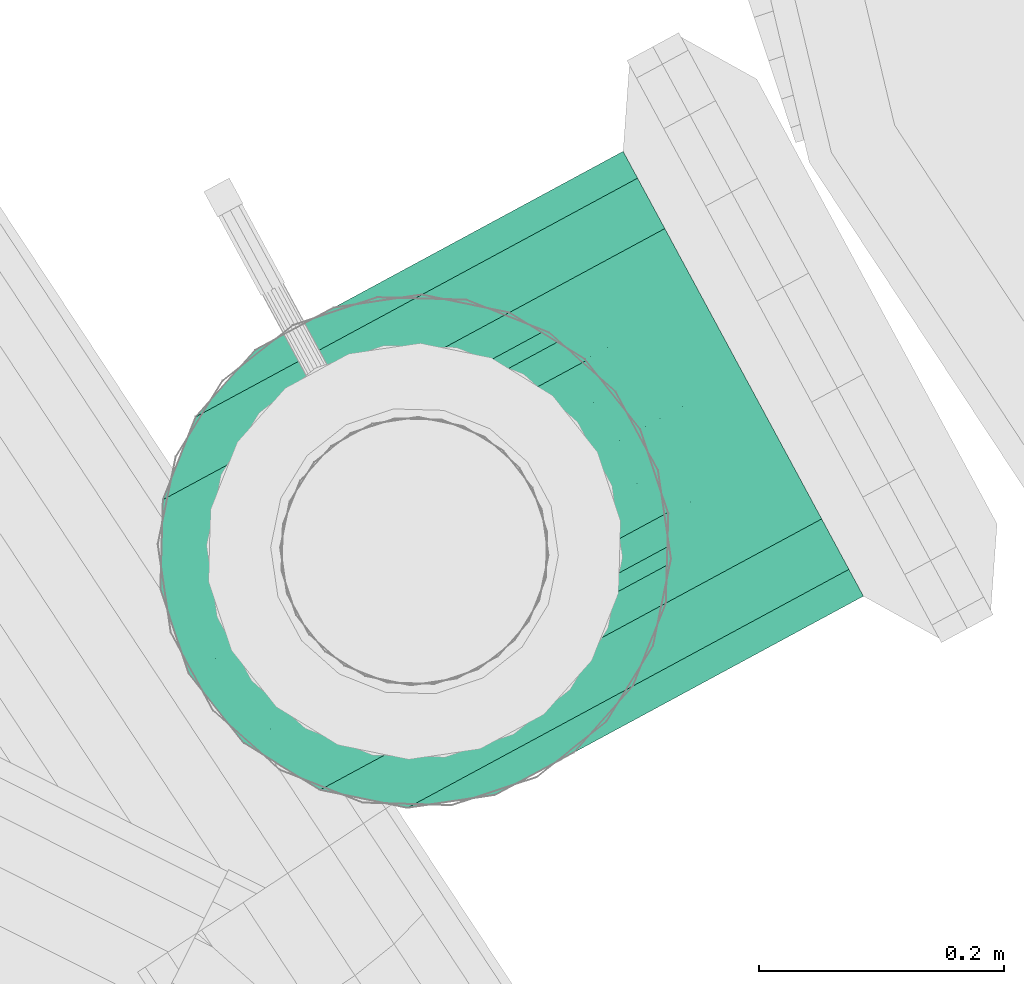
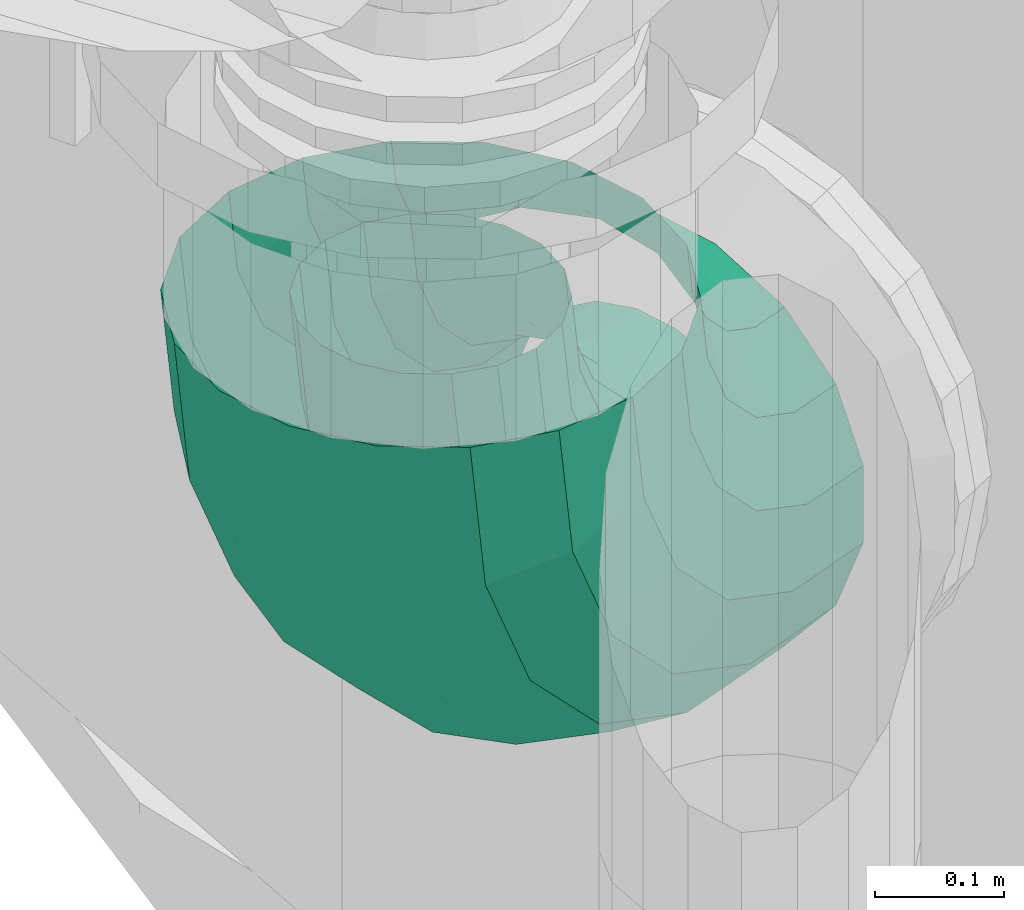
# One storey, part 97 of 206: 1 flow segment.
"""IFC2X3 building model written with IfcOpenShell, lengths in metres."""

from ifc_helpers import new_model, si_unit, derived_unit, direction, frame, origin, place, context, subcontext, project, spatial, face_set, surface_model, source, transform, mapped, material, type_object, type_shapes, element, save


model = new_model("IFC2X3")

# Units and contexts
model_context = context("Model", 3, precision=5.2338327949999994e-05, world=origin(), true_north=direction((0.0, 1.0)))
body_context = subcontext(model_context, "Body", "Model", "MODEL_VIEW")
ifc_project = project(units=[si_unit("LENGTHUNIT", "METRE"), si_unit("AREAUNIT", "SQUARE_METRE"), si_unit("VOLUMEUNIT", "CUBIC_METRE"), si_unit("MASSUNIT", "GRAM", prefix="KILO"), si_unit("PLANEANGLEUNIT", "RADIAN"), derived_unit("THERMALTRANSMITTANCEUNIT", [(si_unit("MASSUNIT", "GRAM", prefix="KILO"), 1), (si_unit("THERMODYNAMICTEMPERATUREUNIT", "KELVIN"), -1), (si_unit("TIMEUNIT", "SECOND"), -3)])], contexts=[model_context])

# Site, building, storey
site_placement = place(None, frame((0.0, 0.0, 0.0), z_axis=(0.0, 0.0, 1.0), x_axis=(0.8939966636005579, -0.4480736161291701, 0.0)))
site = spatial("IfcSite", under=ifc_project, at=site_placement, Name="Default", CompositionType="ELEMENT")
building_placement = place(site_placement, origin())
building = spatial("IfcBuilding", under=site, at=building_placement, CompositionType="ELEMENT")
storey_placement = place(building_placement, origin())
storey = spatial("IfcBuildingStorey", under=building, at=storey_placement, Name="Erdgeschoss", CompositionType="ELEMENT", Elevation=0.0)

# Flow segment
ifc_material = material(Name="IfcSurfaceStyle #1741")
distribution_element_type = type_object("IfcDistributionElementType", Name="Rohrbogen 350151:Rohrbogen 350151", material=ifc_material)
shared_shape = source(origin(), body_context, "Body", "SurfaceModel", [
    surface_model("IfcFaceBasedSurfaceModel", [(34.10171883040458, 9.469604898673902, 1.3), (34.13241107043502, 9.44811396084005, 1.3066066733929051), (34.060105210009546, 9.34485049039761, 1.3265728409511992), (34.028241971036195, 9.364669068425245, 1.320289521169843), (33.99487715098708, 9.251695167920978, 1.3845169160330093), (33.96195753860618, 9.27000508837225, 1.3791720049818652), (33.94311187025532, 9.177766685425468, 1.4747669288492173), (33.90935391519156, 9.19487932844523, 1.4708836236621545), (33.909876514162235, 9.130301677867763, 1.5884885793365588), (33.87558030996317, 9.146645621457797, 1.5864470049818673), (33.89842439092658, 9.113946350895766, 1.714550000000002), (33.8639427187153, 9.130025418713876, 1.7145500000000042), (34.15940137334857, 9.429215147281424, 1.3256298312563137), (34.0904672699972, 9.33076704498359, 1.3446649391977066), (34.02828091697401, 9.241955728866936, 1.3999069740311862), (33.9789295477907, 9.171474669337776, 1.485948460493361), (33.947244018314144, 9.126223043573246, 1.5943670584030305), (33.93632592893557, 9.11063039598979, 1.7145500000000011), (34.17943431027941, 9.415187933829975, 1.3547749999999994), (34.11566603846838, 9.324117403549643, 1.3723836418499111), (34.0581398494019, 9.241961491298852, 1.4234859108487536), (34.0124868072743, 9.176762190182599, 1.5030795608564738), (33.98317574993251, 9.13490166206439, 1.603373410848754), (33.97307584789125, 9.12047750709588, 1.714550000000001), (34.19009361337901, 9.40772420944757, 1.3905268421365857), (34.13266217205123, 9.32570361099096, 1.406385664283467), (34.080852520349, 9.251711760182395, 1.452409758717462), (34.03973614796, 9.192991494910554, 1.52409396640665), (34.01333781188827, 9.155290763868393, 1.6144213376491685), (34.004241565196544, 9.142299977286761, 1.71455), (34.19009361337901, 9.407724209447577, 1.4285731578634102), (34.13940568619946, 9.335334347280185, 1.442569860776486), (34.09367944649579, 9.27003050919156, 1.4831898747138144), (34.05739089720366, 9.218205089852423, 1.5464570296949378), (34.034092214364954, 9.184931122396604, 1.6261782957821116), (34.026064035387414, 9.173465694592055, 1.7145500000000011), (34.17943431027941, 9.415187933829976, 1.4643249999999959), (34.1350832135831, 9.351848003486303, 1.4765718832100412), (34.09507351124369, 9.29470822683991, 1.5121137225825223), (34.06332163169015, 9.249361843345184, 1.5674714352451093), (34.04293567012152, 9.220247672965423, 1.6372262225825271), (34.0359111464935, 9.21021561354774, 1.7145499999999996), (34.159401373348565, 9.429215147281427, 1.4934701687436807), (34.12021610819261, 9.37325278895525, 1.5042905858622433), (34.084866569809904, 9.322768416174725, 1.5356926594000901), (34.05681301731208, 9.282703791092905, 1.5846025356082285), (34.038801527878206, 9.25698071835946, 1.6462325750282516), (34.03259519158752, 9.248117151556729, 1.7145499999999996), (34.13241107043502, 9.44811396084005, 1.5124933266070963), (34.09659756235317, 9.39696697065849, 1.5223826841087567), (34.064289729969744, 9.350826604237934, 1.5510827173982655), (34.03865008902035, 9.314209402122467, 1.5957840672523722), (34.022188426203, 9.290699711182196, 1.6521110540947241), (34.0165161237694, 9.282598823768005, 1.7145499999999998), (34.101718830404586, 9.469604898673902, 1.5190999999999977), (34.06707632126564, 9.420130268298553, 1.5286660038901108), (34.03582486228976, 9.375498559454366, 1.5564276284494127), (34.01102356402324, 9.340078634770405, 1.599667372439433), (33.9951001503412, 9.317337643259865, 1.6541526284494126), (33.98961331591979, 9.309501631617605, 1.7145499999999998), (34.07102659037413, 9.491095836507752, 1.5124933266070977), (34.03521308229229, 9.43994884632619, 1.5223826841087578), (34.00290524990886, 9.393808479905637, 1.5510827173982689), (33.97726560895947, 9.357191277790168, 1.595784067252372), (33.96080394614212, 9.333681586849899, 1.6521110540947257), (33.95513164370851, 9.325580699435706, 1.7145500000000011), (34.04403628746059, 9.509994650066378, 1.4934701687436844), (34.00485102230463, 9.454032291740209, 1.5042905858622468), (33.969501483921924, 9.403547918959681, 1.5356926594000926), (33.941447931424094, 9.363483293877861, 1.5846025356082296), (33.923436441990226, 9.337760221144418, 1.6462325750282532), (33.91723010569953, 9.328896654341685, 1.7145500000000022), (34.02400335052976, 9.524021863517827, 1.4643250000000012), (33.97965225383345, 9.460681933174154, 1.4765718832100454), (33.93964255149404, 9.403542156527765, 1.5121137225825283), (33.90789067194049, 9.358195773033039, 1.5674714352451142), (33.887504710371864, 9.329081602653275, 1.6372262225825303), (33.88048018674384, 9.319049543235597, 1.7145500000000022), (34.01334404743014, 9.531485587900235, 1.4285731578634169), (33.962656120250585, 9.459095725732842, 1.4425698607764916), (33.91692988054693, 9.393791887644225, 1.4831898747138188), (33.8806413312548, 9.341966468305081, 1.5464570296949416), (33.85734264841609, 9.308692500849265, 1.6261782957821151), (33.849314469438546, 9.297227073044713, 1.7145500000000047), (34.01334404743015, 9.531485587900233, 1.39052684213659), (33.95591260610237, 9.449464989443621, 1.4063856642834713), (33.90410295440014, 9.375473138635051, 1.4524097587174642), (33.86298658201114, 9.316752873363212, 1.524093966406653), (33.8365882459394, 9.279052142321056, 1.6144213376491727), (33.82749199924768, 9.266061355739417, 1.7145500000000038), (34.024003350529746, 9.524021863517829, 1.3547750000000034), (33.96023507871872, 9.432951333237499, 1.3723836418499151), (33.90270888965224, 9.350795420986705, 1.423485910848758), (33.857055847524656, 9.285596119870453, 1.503079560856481), (33.82774479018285, 9.243735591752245, 1.6033734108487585), (33.817644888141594, 9.229311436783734, 1.7145500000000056), (34.04403628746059, 9.509994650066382, 1.3256298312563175), (33.975102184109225, 9.411546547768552, 1.3446649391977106), (33.91291583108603, 9.322735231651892, 1.399906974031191), (33.86356446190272, 9.252254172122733, 1.4859484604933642), (33.83187893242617, 9.2070025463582, 1.5943670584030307), (33.82096084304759, 9.191409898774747, 1.7145500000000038), (34.07102659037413, 9.491095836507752, 1.3066066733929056), (33.998720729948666, 9.38783236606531, 1.3265728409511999), (33.93349267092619, 9.294677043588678, 1.3845169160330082), (33.88172739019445, 9.220748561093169, 1.4747669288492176), (33.84849203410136, 9.173283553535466, 1.588488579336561), (33.83703991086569, 9.156928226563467, 1.7145500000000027), (34.10171883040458, 9.469604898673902, 1.1999999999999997), (34.160427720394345, 9.428496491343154, 1.212637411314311), (34.07146629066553, 9.301446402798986, 1.237202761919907), (34.01051748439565, 9.339355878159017, 1.2251838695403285), (33.9912130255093, 9.18683286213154, 1.308494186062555), (33.928243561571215, 9.221856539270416, 1.2982703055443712), (33.927523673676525, 9.095875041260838, 1.4195331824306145), (33.862950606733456, 9.128608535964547, 1.4121050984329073), (33.8866325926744, 9.03747652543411, 1.5594504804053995), (33.82102994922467, 9.068739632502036, 1.5555453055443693), (33.87254248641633, 9.017353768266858, 1.7145500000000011), (33.8065850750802, 9.04811021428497, 1.7145500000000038), (34.21205545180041, 9.392346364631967, 1.2490253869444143), (34.129543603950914, 9.274507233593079, 1.271809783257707), (34.05510859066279, 9.168203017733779, 1.3379326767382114), (33.99603662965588, 9.083839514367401, 1.4409214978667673), (33.958110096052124, 9.029674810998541, 1.5706949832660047), (33.94504150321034, 9.011010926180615, 1.7145500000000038), (34.25037495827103, 9.365514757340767, 1.3047749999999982), (34.17774444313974, 9.261787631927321, 1.3248308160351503), (34.11222350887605, 9.168214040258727, 1.3830350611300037), (34.06022580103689, 9.093953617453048, 1.473690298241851), (34.02684121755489, 9.046275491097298, 1.5879225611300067), (34.01533767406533, 9.029846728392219, 1.7145500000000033), (34.270764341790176, 9.351237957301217, 1.3731620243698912), (34.210255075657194, 9.264821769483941, 1.389870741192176), (34.15566887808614, 9.186864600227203, 1.4383613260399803), (34.1123490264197, 9.124997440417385, 1.5138871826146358), (34.08453596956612, 9.085276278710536, 1.6090553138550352), (34.074952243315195, 9.071589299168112, 1.7145499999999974), (34.27076434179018, 9.351237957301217, 1.4459379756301), (34.22315423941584, 9.283243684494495, 1.4590847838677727), (34.18020454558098, 9.221905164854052, 1.497238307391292), (34.14611947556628, 9.173226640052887, 1.5566638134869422), (34.12423551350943, 9.141973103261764, 1.6315443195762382), (34.11669481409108, 9.131203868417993, 1.7145499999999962), (34.25037495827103, 9.365514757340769, 1.5143249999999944), (34.214886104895, 9.314831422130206, 1.5241247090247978), (34.182871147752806, 9.269109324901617, 1.5525645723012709), (34.157463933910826, 9.232824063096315, 1.5968606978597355), (34.1411514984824, 9.209527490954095, 1.6526770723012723), (34.135530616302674, 9.201500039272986, 1.7145499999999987), (34.21205545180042, 9.392346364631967, 1.570074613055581), (34.186447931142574, 9.355775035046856, 1.5771457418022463), (34.163347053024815, 9.322783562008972, 1.5976669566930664), (34.14501409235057, 9.296601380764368, 1.629629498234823), (34.13324360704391, 9.279791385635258, 1.6699046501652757), (34.12918777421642, 9.273999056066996, 1.7145499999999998), (34.16042772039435, 9.428496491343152, 1.6064625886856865), (34.14126978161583, 9.401136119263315, 1.6117527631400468), (34.123987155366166, 9.376453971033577, 1.6271054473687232), (34.1102715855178, 9.356866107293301, 1.651017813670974), (34.1014656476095, 9.344289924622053, 1.6811491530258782), (34.09843132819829, 9.339956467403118, 1.714549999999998), (34.101718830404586, 9.469604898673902, 1.619099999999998), (34.084800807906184, 9.445443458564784, 1.6237716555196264), (34.06953883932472, 9.4236471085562, 1.6373293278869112), (34.05742687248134, 9.406349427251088, 1.6584458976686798), (34.0496505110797, 9.395243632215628, 1.685054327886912), (34.04697095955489, 9.391416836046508, 1.71455), (34.04300994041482, 9.510713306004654, 1.60646258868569), (34.0238520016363, 9.483352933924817, 1.6117527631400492), (34.006569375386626, 9.458670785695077, 1.627105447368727), (33.992853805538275, 9.439082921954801, 1.651017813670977), (33.984047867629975, 9.426506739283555, 1.6811491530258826), (33.981013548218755, 9.422173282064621, 1.7145500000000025), (33.99138220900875, 9.546863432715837, 1.5700746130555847), (33.965774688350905, 9.510292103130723, 1.57714574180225), (33.942673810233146, 9.47730063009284, 1.5976669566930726), (33.92434084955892, 9.451118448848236, 1.6296294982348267), (33.91257036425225, 9.434308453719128, 1.6699046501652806), (33.90851453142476, 9.428516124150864, 1.7145500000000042), (33.95306270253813, 9.573695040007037, 1.5143250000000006), (33.91757384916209, 9.523011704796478, 1.5241247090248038), (33.885558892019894, 9.477289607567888, 1.5525645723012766), (33.860151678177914, 9.441004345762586, 1.5968606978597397), (33.84383924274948, 9.417707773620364, 1.6526770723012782), (33.83821836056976, 9.409680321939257, 1.7145500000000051), (33.93267331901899, 9.587971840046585, 1.445937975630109), (33.885063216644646, 9.519977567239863, 1.4590847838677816), (33.84211352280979, 9.458639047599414, 1.4972383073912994), (33.80802845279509, 9.409960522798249, 1.55666381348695), (33.78614449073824, 9.378706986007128, 1.631544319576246), (33.77860379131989, 9.36793775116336, 1.7145500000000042), (33.93267331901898, 9.587971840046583, 1.3731620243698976), (33.872164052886, 9.501555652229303, 1.3898707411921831), (33.817577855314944, 9.423598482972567, 1.438361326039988), (33.7742580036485, 9.361731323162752, 1.513887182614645), (33.746444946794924, 9.322010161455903, 1.6090553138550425), (33.736861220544, 9.308323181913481, 1.7145500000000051), (33.95306270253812, 9.573695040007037, 1.3047750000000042), (33.880432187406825, 9.46996791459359, 1.3248308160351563), (33.81491125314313, 9.376394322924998, 1.3830350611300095), (33.76291354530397, 9.30213390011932, 1.4736902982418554), (33.72952896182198, 9.254455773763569, 1.587922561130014), (33.71802541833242, 9.238027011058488, 1.71455000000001), (33.99138220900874, 9.546863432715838, 1.2490253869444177), (33.90887036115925, 9.429024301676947, 1.2718097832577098), (33.83443534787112, 9.322720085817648, 1.3379326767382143), (33.77536338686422, 9.23835658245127, 1.440921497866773), (33.73743685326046, 9.184191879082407, 1.570694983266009), (33.72436826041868, 9.165527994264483, 1.7145500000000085), (34.04300994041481, 9.510713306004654, 1.2126374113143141), (33.95404851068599, 9.383663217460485, 1.2372027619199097), (33.87379524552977, 9.26904967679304, 1.3084941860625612), (33.81010589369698, 9.178091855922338, 1.4195331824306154), (33.76921481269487, 9.119693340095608, 1.559450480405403), (33.7551247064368, 9.099570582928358, 1.7145500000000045)], [face_set([[[0, 1, 2, 3]], [[3, 2, 4, 5]], [[5, 4, 6, 7]], [[7, 6, 8, 9]], [[9, 8, 10, 11]], [[1, 12, 13, 2]], [[2, 13, 14, 4]], [[4, 14, 15, 6]], [[6, 15, 16, 8]], [[8, 16, 17, 10]], [[12, 18, 19, 13]], [[13, 19, 20, 14]], [[14, 20, 21, 15]], [[15, 21, 22, 16]], [[16, 22, 23, 17]], [[18, 24, 25, 19]], [[19, 25, 26, 20]], [[20, 26, 27, 21]], [[21, 27, 28, 22]], [[22, 28, 29, 23]], [[24, 30, 31, 25]], [[25, 31, 32, 26]], [[26, 32, 33, 27]], [[27, 33, 34, 28]], [[28, 34, 35, 29]], [[30, 36, 37, 31]], [[31, 37, 38, 32]], [[32, 38, 39, 33]], [[33, 39, 40, 34]], [[34, 40, 41, 35]], [[36, 42, 43, 37]], [[37, 43, 44, 38]], [[38, 44, 45, 39]], [[39, 45, 46, 40]], [[40, 46, 47, 41]], [[42, 48, 49, 43]], [[43, 49, 50, 44]], [[44, 50, 51, 45]], [[45, 51, 52, 46]], [[46, 52, 53, 47]], [[48, 54, 55, 49]], [[49, 55, 56, 50]], [[50, 56, 57, 51]], [[51, 57, 58, 52]], [[52, 58, 59, 53]], [[54, 60, 61, 55]], [[55, 61, 62, 56]], [[56, 62, 63, 57]], [[57, 63, 64, 58]], [[58, 64, 65, 59]], [[60, 66, 67, 61]], [[61, 67, 68, 62]], [[62, 68, 69, 63]], [[63, 69, 70, 64]], [[64, 70, 71, 65]], [[66, 72, 73, 67]], [[67, 73, 74, 68]], [[68, 74, 75, 69]], [[69, 75, 76, 70]], [[70, 76, 77, 71]], [[72, 78, 79, 73]], [[73, 79, 80, 74]], [[74, 80, 81, 75]], [[75, 81, 82, 76]], [[76, 82, 83, 77]], [[78, 84, 85, 79]], [[79, 85, 86, 80]], [[80, 86, 87, 81]], [[81, 87, 88, 82]], [[82, 88, 89, 83]], [[84, 90, 91, 85]], [[85, 91, 92, 86]], [[86, 92, 93, 87]], [[87, 93, 94, 88]], [[88, 94, 95, 89]], [[90, 96, 97, 91]], [[91, 97, 98, 92]], [[92, 98, 99, 93]], [[93, 99, 100, 94]], [[94, 100, 101, 95]], [[96, 102, 103, 97]], [[97, 103, 104, 98]], [[98, 104, 105, 99]], [[99, 105, 106, 100]], [[100, 106, 107, 101]], [[102, 0, 3, 103]], [[103, 3, 5, 104]], [[104, 5, 7, 105]], [[105, 7, 9, 106]], [[106, 9, 11, 107]], [[108, 109, 110, 111]], [[111, 110, 112, 113]], [[113, 112, 114, 115]], [[115, 114, 116, 117]], [[117, 116, 118, 119]], [[109, 120, 121, 110]], [[110, 121, 122, 112]], [[112, 122, 123, 114]], [[114, 123, 124, 116]], [[116, 124, 125, 118]], [[120, 126, 127, 121]], [[121, 127, 128, 122]], [[122, 128, 129, 123]], [[123, 129, 130, 124]], [[124, 130, 131, 125]], [[126, 132, 133, 127]], [[127, 133, 134, 128]], [[128, 134, 135, 129]], [[129, 135, 136, 130]], [[130, 136, 137, 131]], [[132, 138, 139, 133]], [[133, 139, 140, 134]], [[134, 140, 141, 135]], [[135, 141, 142, 136]], [[136, 142, 143, 137]], [[138, 144, 145, 139]], [[139, 145, 146, 140]], [[140, 146, 147, 141]], [[141, 147, 148, 142]], [[142, 148, 149, 143]], [[144, 150, 151, 145]], [[145, 151, 152, 146]], [[146, 152, 153, 147]], [[147, 153, 154, 148]], [[148, 154, 155, 149]], [[150, 156, 157, 151]], [[151, 157, 158, 152]], [[152, 158, 159, 153]], [[153, 159, 160, 154]], [[154, 160, 161, 155]], [[156, 162, 163, 157]], [[157, 163, 164, 158]], [[158, 164, 165, 159]], [[159, 165, 166, 160]], [[160, 166, 167, 161]], [[162, 168, 169, 163]], [[163, 169, 170, 164]], [[164, 170, 171, 165]], [[165, 171, 172, 166]], [[166, 172, 173, 167]], [[168, 174, 175, 169]], [[169, 175, 176, 170]], [[170, 176, 177, 171]], [[171, 177, 178, 172]], [[172, 178, 179, 173]], [[174, 180, 181, 175]], [[175, 181, 182, 176]], [[176, 182, 183, 177]], [[177, 183, 184, 178]], [[178, 184, 185, 179]], [[180, 186, 187, 181]], [[181, 187, 188, 182]], [[182, 188, 189, 183]], [[183, 189, 190, 184]], [[184, 190, 191, 185]], [[186, 192, 193, 187]], [[187, 193, 194, 188]], [[188, 194, 195, 189]], [[189, 195, 196, 190]], [[190, 196, 197, 191]], [[192, 198, 199, 193]], [[193, 199, 200, 194]], [[194, 200, 201, 195]], [[195, 201, 202, 196]], [[196, 202, 203, 197]], [[198, 204, 205, 199]], [[199, 205, 206, 200]], [[200, 206, 207, 201]], [[201, 207, 208, 202]], [[202, 208, 209, 203]], [[204, 210, 211, 205]], [[205, 211, 212, 206]], [[206, 212, 213, 207]], [[207, 213, 214, 208]], [[208, 214, 215, 209]], [[210, 108, 111, 211]], [[211, 111, 113, 212]], [[212, 113, 115, 213]], [[213, 115, 117, 214]], [[214, 117, 119, 215]]])]),
])
type_shapes(distribution_element_type, [shared_shape])
flow_segment_placement = place(storey_placement, origin())
element("IfcFlowSegment", 1, at=flow_segment_placement, inside=storey, type_object=distribution_element_type, material=ifc_material, Name="Rohrbogen", ObjectType="Rohrbogen", context=body_context, shape_type="MappedRepresentation", body=[
    mapped(shared_shape, transform((0.0, 0.0, 0.0), scale=1.0)),
])

save(model, "model.ifc")
